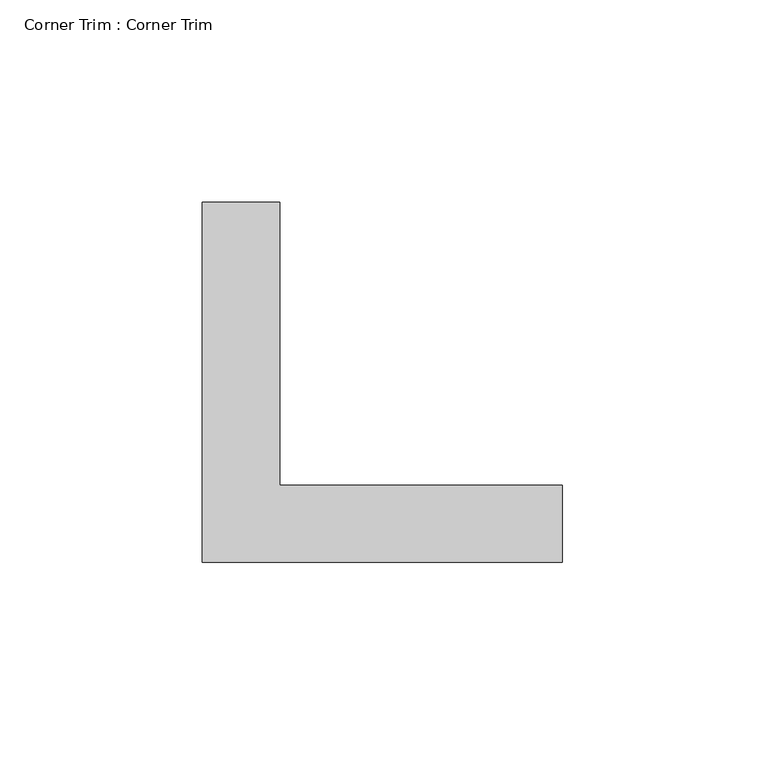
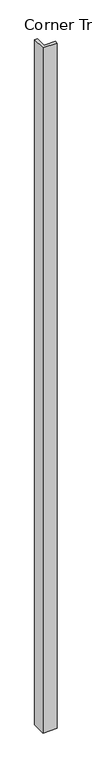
"""IFC4 building model written with IfcOpenShell, lengths in millimetres: proxy geometry, Corner Trim : Corner Trim."""

from ifc_helpers import new_model, si_unit, origin, origin_with_axes, place, context, project, spatial, polyline, outline, extrude, source, transform, mapped, element, save


def corner_trim_corner_trim_7638318b(model_context):
    return source(origin(), model_context, "Body", "SweptSolid", [
        extrude(outline(polyline([(0.0, 0.0), (0.0, 88.9), (19.05, 88.9), (19.05, 19.05), (88.9, 19.05), (88.9, 0.0), (0.0, 0.0)])), origin_with_axes(), (0.0, 0.0, 1.0), 4511.4444064),
    ])


if __name__ == "__main__":
    model = new_model("IFC4")
    model_context = context("Model", 3, world=origin())
    ifc_project = project(units=[si_unit("LENGTHUNIT", "METRE", prefix="MILLI")], contexts=[model_context])
    site = spatial("IfcSite", under=ifc_project)
    building = spatial("IfcBuilding", under=site)
    placement = place(None, origin())
    corner_trim_corner_trim_shape = corner_trim_corner_trim_7638318b(model_context)
    element("IfcBuildingElementProxy", 1, Name="Corner Trim : Corner Trim", ObjectType="Corner Trim : Corner Trim", at=placement, inside=building, context=model_context, shape_type="MappedRepresentation", body=[
        mapped(corner_trim_corner_trim_shape, transform((0.0, 0.0, 0.0), x_axis=(1.0, 0.0, 0.0), y_axis=(0.0, 1.0, 0.0), z_axis=(0.0, 0.0, 1.0))),
    ])
    save(model, "model.ifc")
